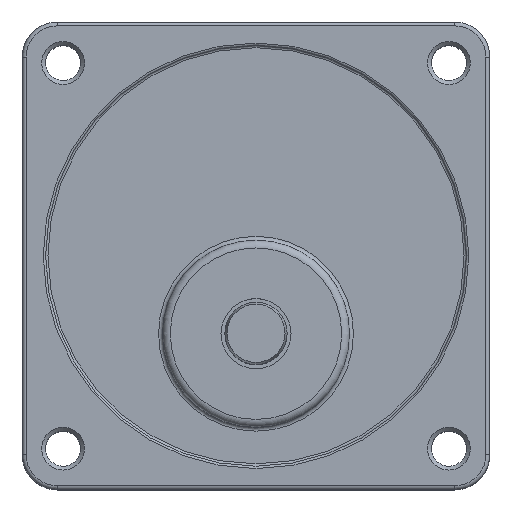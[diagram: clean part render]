
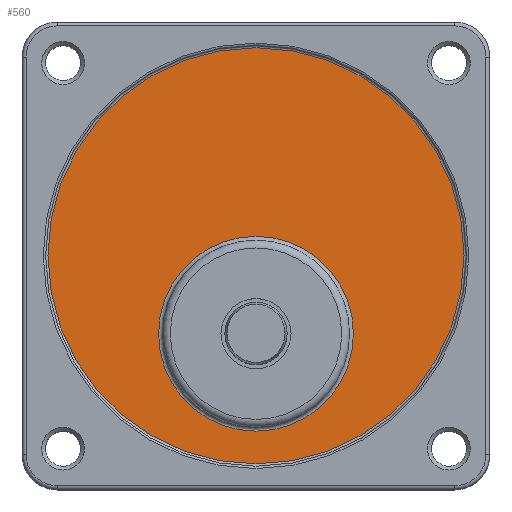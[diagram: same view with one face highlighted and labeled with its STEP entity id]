
A CAD part, top view. The second image highlights one B-rep face of the part: STEP entity #560.
In plain terms, the highlighted planar face has unit normal (0, 0, 1).
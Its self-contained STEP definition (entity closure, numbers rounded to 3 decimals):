
#509=CARTESIAN_POINT('',(42.5,20.0,29.2));
#510=VERTEX_POINT('',#509);
#511=CARTESIAN_POINT('',(30.,20.0,29.2));
#512=DIRECTION('',(0.0,0.0,1.0));
#513=DIRECTION('',(-1.0,0.0,0.0));
#514=AXIS2_PLACEMENT_3D('',#511,#512,#513);
#515=CIRCLE('',#514,12.5);
#516=EDGE_CURVE('',#510,#510,#515,.T.);
#541=CARTESIAN_POINT('',(30.,30.0,29.2));
#542=DIRECTION('',(0.0,0.0,-1.0));
#543=DIRECTION('',(-1.0,0.0,0.0));
#544=AXIS2_PLACEMENT_3D('',#541,#542,#543);
#545=PLANE('',#544);
#546=CARTESIAN_POINT('',(56.699,30.,29.2));
#547=VERTEX_POINT('',#546);
#548=CARTESIAN_POINT('',(30.,30.0,29.2));
#549=DIRECTION('',(0.0,0.0,-1.0));
#550=DIRECTION('',(-1.0,0.0,0.0));
#551=AXIS2_PLACEMENT_3D('',#548,#549,#550);
#552=CIRCLE('',#551,26.699);
#553=EDGE_CURVE('',#547,#547,#552,.T.);
#554=ORIENTED_EDGE('',*,*,#553,.F.);
#555=EDGE_LOOP('',(#554));
#556=FACE_OUTER_BOUND('',#555,.T.);
#557=ORIENTED_EDGE('',*,*,#516,.F.);
#558=EDGE_LOOP('',(#557));
#559=FACE_BOUND('',#558,.T.);
#560=ADVANCED_FACE('',(#556,#559),#545,.F.);
